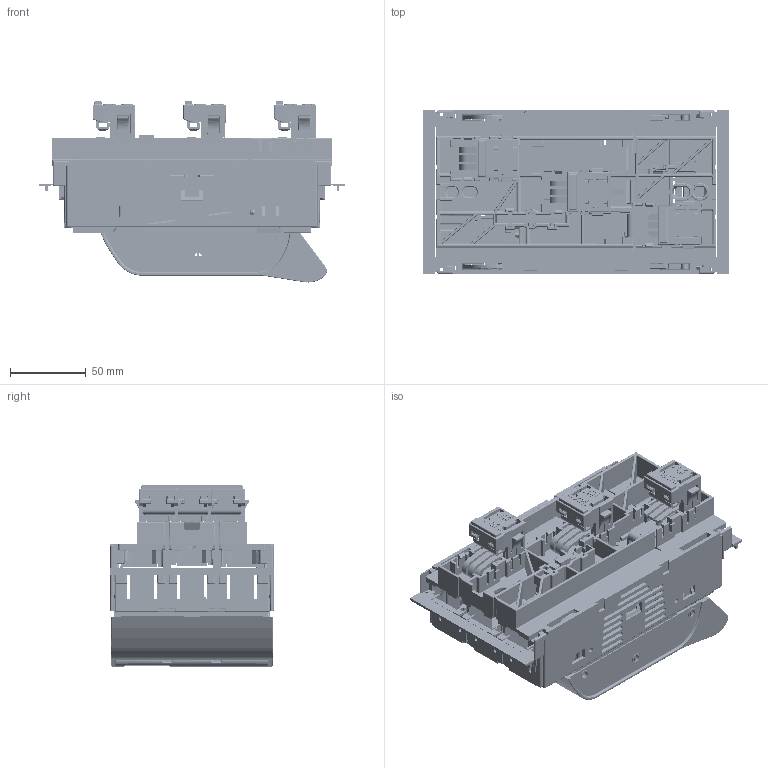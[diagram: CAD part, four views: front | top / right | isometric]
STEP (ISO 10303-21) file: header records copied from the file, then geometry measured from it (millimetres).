
FILE_DESCRIPTION (( 'STEP AP203' ), '1' );
FILE_NAME ('00RST9-3p.STEP', '2014-04-11T06:41:56', ( 'admin' ), ( '' ), 'SwSTEP 2.0', 'SolidWorks 2007', '' );
FILE_SCHEMA (( 'CONFIG_CONTROL_DESIGN' ));
Length unit declared in the file: millimetre
Products named in the file (1): 00RST9-3p
Bounding box: 202.4 x 108 x 119.7 mm (x, y, z)
Volume: 290771.7 mm3; surface area: 334190.2 mm2
Topology: 55 solids, 55 shells, 9731 faces, 26505 edges, 16624 vertices
Faces by surface type: plane 5444, cylinder 2843, bspline 1295, cone 137, torus 12
Entity records: 357493 total; most frequent: CARTESIAN_POINT 128229, ORIENTED_EDGE 52602, DIRECTION 40372, EDGE_CURVE 26301, VECTOR 18042, LINE 18042, VERTEX_POINT 16624, AXIS2_PLACEMENT_3D 11165
